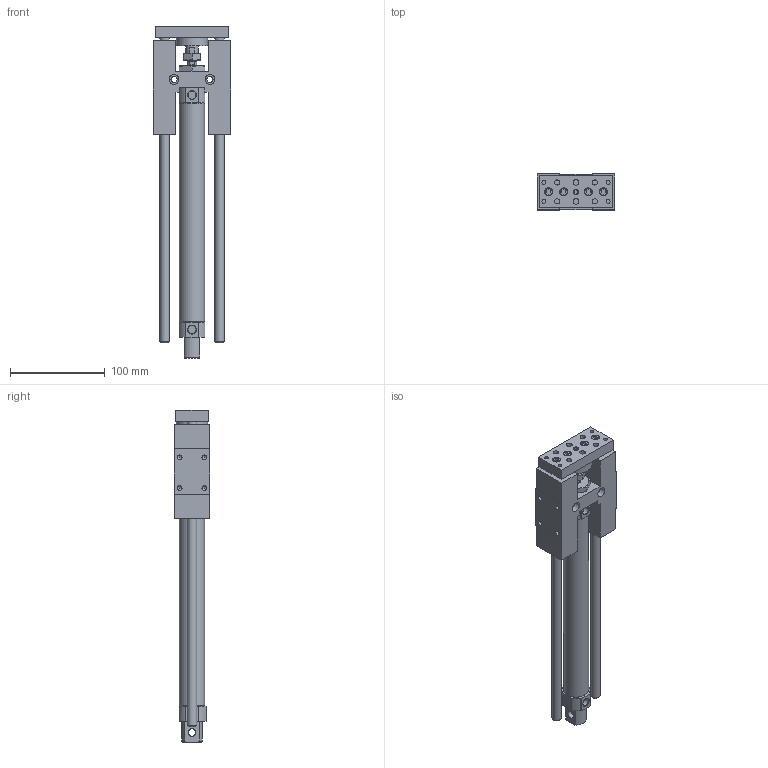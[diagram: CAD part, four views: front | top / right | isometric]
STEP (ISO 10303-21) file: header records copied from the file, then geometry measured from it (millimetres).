
FILE_DESCRIPTION((''),'2;1');
FILE_NAME('I:\3D電子目錄\氣缸\GHB(U)\GHB(U)\GHB(U)25\GHB(U)25x200.stp','2007-10-22T16:51:26',('Administrator'),(''),'Autodesk Inventor 11','Autodesk Inventor 11','');
FILE_SCHEMA(('AUTOMOTIVE_DESIGN { 1 0 10303 214 1 1 1 1 }'));
Length unit declared in the file: millimetre
Products named in the file (1): GHB(U)25
Bounding box: 82 x 38 x 351 mm (x, y, z)
Volume: 432780.5 mm3; surface area: 85879.7 mm2
Topology: 1 solids, 1 shells, 230 faces, 542 edges, 352 vertices
Faces by surface type: plane 131, cylinder 38, bspline 36, cone 25
Full cylindrical faces by diameter (mm): 4.917 x4, 5 x1, 6 x5, 7.5 x4, 8 x1, 8.5 x6, 8.6 x1, 10 x3, 13 x1, 26.6 x1, 33 x1
Entity records: 6522 total; most frequent: CARTESIAN_POINT 1583, DIRECTION 974, ORIENTED_EDGE 928, EDGE_CURVE 464, EDGE_LOOP 358, AXIS2_PLACEMENT_3D 347, VERTEX_POINT 338, VECTOR 280
